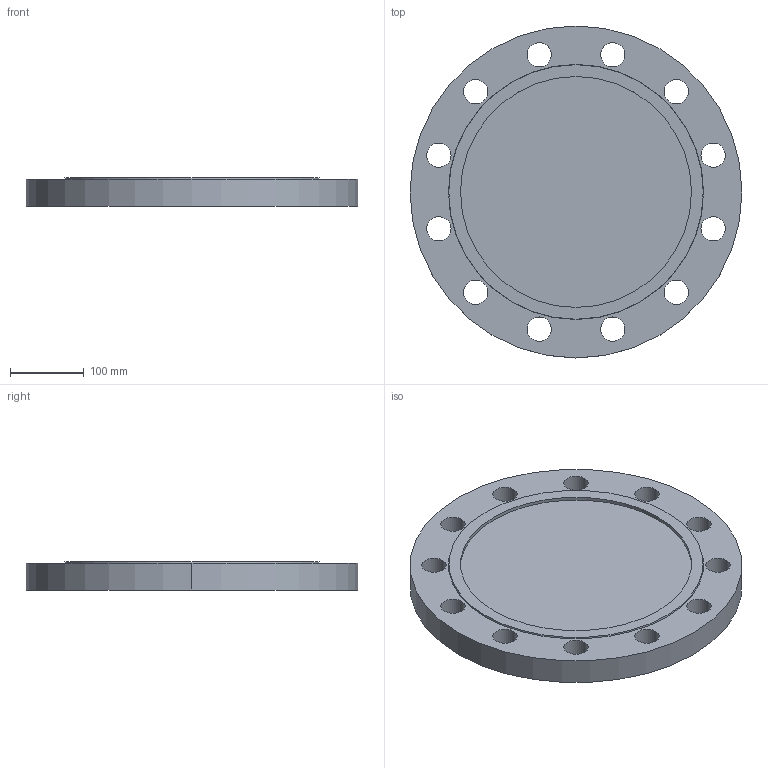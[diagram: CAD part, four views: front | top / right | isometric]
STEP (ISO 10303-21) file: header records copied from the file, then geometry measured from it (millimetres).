
FILE_DESCRIPTION (( 'STEP AP214' ), '1' );
FILE_NAME ('PN40 DN250 Type 05 - Type F Face.STEP', '2019-01-05T16:14:28', ( '' ), ( '' ), 'SwSTEP 2.0', 'SolidWorks 2019', '' );
FILE_SCHEMA (( 'AUTOMOTIVE_DESIGN' ));
Length unit declared in the file: millimetre
Products named in the file (1): PN40 DN250 Type 05 - Type F Face
Bounding box: 450 x 450 x 38 mm (x, y, z)
Volume: 5197159.1 mm3; surface area: 399485.1 mm2
Topology: 1 solids, 1 shells, 34 faces, 90 edges, 60 vertices
Faces by surface type: cylinder 28, plane 4, cone 2
Entity records: 1176 total; most frequent: DIRECTION 220, CARTESIAN_POINT 185, ORIENTED_EDGE 180, AXIS2_PLACEMENT_3D 95, EDGE_CURVE 90, CIRCLE 60, EDGE_LOOP 60, VERTEX_POINT 60
